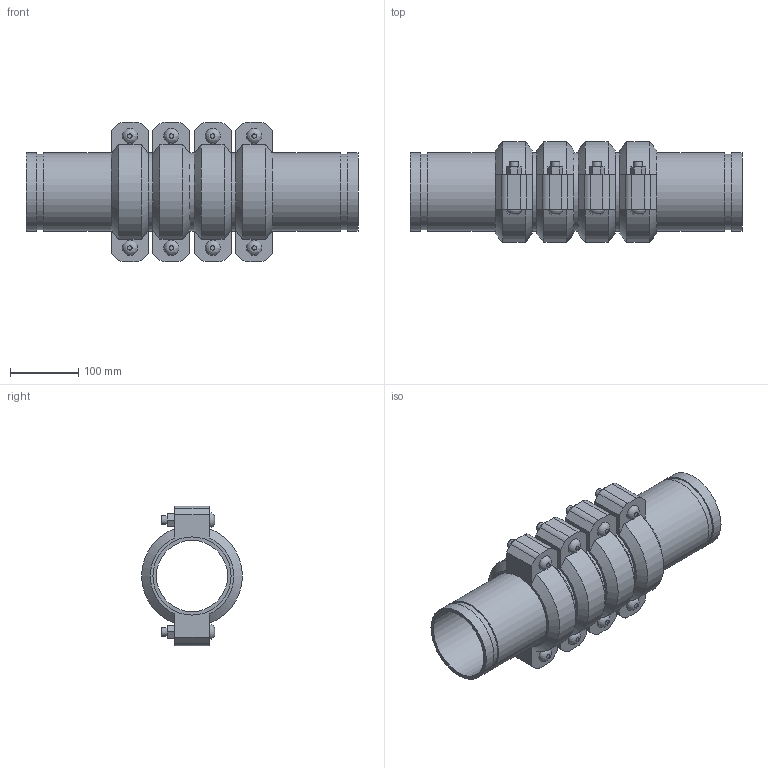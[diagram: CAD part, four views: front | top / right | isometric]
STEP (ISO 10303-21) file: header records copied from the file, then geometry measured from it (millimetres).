
FILE_DESCRIPTION(/* description */ ('VIC EXPANSION JOINT 4 COUPLINGS COMPRESSED STYLE 155 (OGS)','CAx-IF Rec.Pracs.---Representation and Presentation of Product Manufacturing Information (PMI)---4.0---2014-10-13'),/* implementation_level */ '2;1');
FILE_NAME(/* name */ 'C:\Users\kkamble\AppData\Roaming\Autodesk\ApplicationPlugins\Victaulic.Temp\A318\Victaulic_IPS_Expansion Joint_Compressed_4 Couplings_Style 155 (OGS)_4 (100).stp',/* time_stamp */ '2021-06-27T00:27:36+02:00',/* author */ ('kkamble'),/* organization */ ('Victaulic'),/* preprocessor_version */ 'ST-DEVELOPER v17.2',/* originating_system */ 'Autodesk Inventor 2019',/* authorisation */ '');
FILE_SCHEMA (('AP242_MANAGED_MODEL_BASED_3D_ENGINEERING_MIM_LF { 1 0 10303 442 1 1 4 }'));
Length unit declared in the file: inch
Products named in the file (4): 155-04.0; Nipple-04.0; Nipple-04.0_1; 075_4_Coup-04.0
Assembly tree (9 placements, depth 2):
  155-04.0
    Nipple-04.0  x2
    Nipple-04.0_1  x3
    075_4_Coup-04.0  x4
Bounding box: 485.39 x 147.32 x 203.96 mm (x, y, z)
Volume: 2704944.8 mm3; surface area: 674911.1 mm2
Topology: 9 solids, 17 shells, 288 faces, 682 edges, 480 vertices
Faces by surface type: plane 174, cylinder 90, cone 16, bspline 8
Full cylindrical faces by diameter (mm): 12.7 x16, 14.605 x8, 103.988 x5, 107.95 x4, 110.084 x10, 114.3 x23
Entity records: 2794 total; most frequent: CARTESIAN_POINT 493, DIRECTION 461, ORIENTED_EDGE 386, EDGE_CURVE 193, AXIS2_PLACEMENT_3D 184, VERTEX_POINT 138, EDGE_LOOP 107, LINE 93
